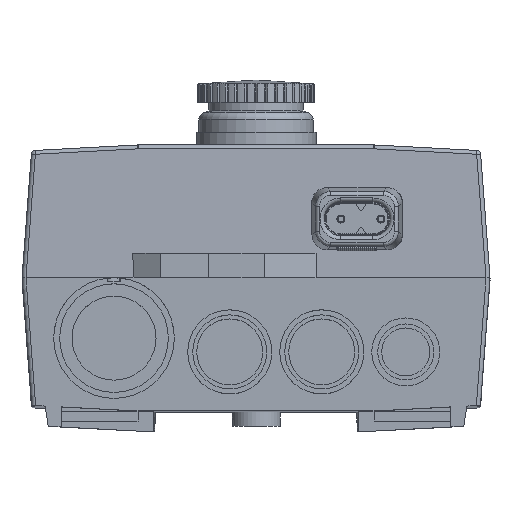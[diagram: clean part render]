
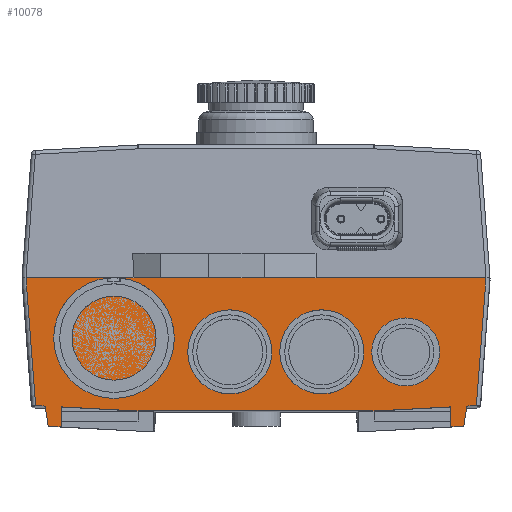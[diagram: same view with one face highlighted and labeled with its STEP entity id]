
A CAD part, top view. The second image highlights one B-rep face of the part: STEP entity #10078.
In plain terms, the highlighted planar face has unit normal (0, 0, 1).
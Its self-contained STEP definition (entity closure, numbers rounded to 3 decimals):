
#894=DIRECTION('',(-1.,0.,0.));
#895=VECTOR('',#894,42.498);
#896=CARTESIAN_POINT('',(57.498,0.,68.5));
#897=LINE('',#896,#895);
#906=DIRECTION('',(-1.,0.,0.));
#907=VECTOR('',#906,5.);
#908=CARTESIAN_POINT('',(-30.5,0.,68.5));
#909=LINE('',#908,#907);
#910=DIRECTION('',(-1.,0.,0.));
#911=VECTOR('',#910,21.998);
#912=CARTESIAN_POINT('',(-35.5,0.,68.5));
#913=LINE('',#912,#911);
#1002=DIRECTION('',(-0.075,0.997,0.));
#1003=VECTOR('',#1002,31.999);
#1004=CARTESIAN_POINT('',(-55.098,-31.908,
68.5));
#1005=LINE('',#1004,#1003);
#1006=CARTESIAN_POINT('',(-35.5,-15.075,68.5));
#1007=DIRECTION('',(0.,0.,1.));
#1008=DIRECTION('',(0.,1.,0.));
#1009=AXIS2_PLACEMENT_3D('',#1006,#1007,#1008);
#1011=CARTESIAN_POINT('',(-35.5,-15.075,68.5));
#1012=DIRECTION('',(0.,0.,1.));
#1013=DIRECTION('',(-1.,0.,0.));
#1014=AXIS2_PLACEMENT_3D('',#1011,#1012,#1013);
#1016=CARTESIAN_POINT('',(-35.5,-15.075,68.5));
#1017=DIRECTION('',(0.,0.,1.));
#1018=DIRECTION('',(1.,0.,0.));
#1019=AXIS2_PLACEMENT_3D('',#1016,#1017,#1018);
#1021=DIRECTION('',(-0.075,-0.997,0.));
#1022=VECTOR('',#1021,31.999);
#1023=CARTESIAN_POINT('',(57.498,0.,68.5));
#1024=LINE('',#1023,#1022);
#1025=DIRECTION('',(-0.999,-0.052,0.));
#1026=VECTOR('',#1025,2.397);
#1027=CARTESIAN_POINT('',(55.098,-31.908,68.5));
#1028=LINE('',#1027,#1026);
#1029=DIRECTION('',(-0.151,-0.989,0.));
#1030=VECTOR('',#1029,5.099);
#1031=CARTESIAN_POINT('',(52.705,-32.034,68.5));
#1032=LINE('',#1031,#1030);
#1033=DIRECTION('',(-0.999,-0.052,0.));
#1034=VECTOR('',#1033,3.23);
#1035=CARTESIAN_POINT('',(51.936,-37.074,68.5));
#1036=LINE('',#1035,#1034);
#1037=DIRECTION('',(-0.999,-0.052,0.));
#1038=VECTOR('',#1037,19.237);
#1039=CARTESIAN_POINT('',(48.71,-32.243,68.5));
#1040=LINE('',#1039,#1038);
#1041=DIRECTION('',(-1.,0.,0.));
#1042=VECTOR('',#1041,59.);
#1043=CARTESIAN_POINT('',(29.5,-33.25,68.5));
#1044=LINE('',#1043,#1042);
#1045=DIRECTION('',(-0.999,0.052,0.));
#1046=VECTOR('',#1045,19.237);
#1047=CARTESIAN_POINT('',(-29.5,-33.25,68.5));
#1048=LINE('',#1047,#1046);
#1049=DIRECTION('',(0.,-1.,0.));
#1050=VECTOR('',#1049,5.);
#1051=CARTESIAN_POINT('',(-48.71,-32.243,68.5));
#1052=LINE('',#1051,#1050);
#1053=DIRECTION('',(-0.999,0.052,0.));
#1054=VECTOR('',#1053,3.23);
#1055=CARTESIAN_POINT('',(-48.71,-37.243,68.5));
#1056=LINE('',#1055,#1054);
#1057=DIRECTION('',(-0.151,0.989,0.));
#1058=VECTOR('',#1057,5.099);
#1059=CARTESIAN_POINT('',(-51.936,-37.074,68.5));
#1060=LINE('',#1059,#1058);
#1061=DIRECTION('',(-0.999,0.052,0.));
#1062=VECTOR('',#1061,2.397);
#1063=CARTESIAN_POINT('',(-52.705,-32.034,68.5));
#1064=LINE('',#1063,#1062);
#1065=CARTESIAN_POINT('',(-6.563,-18.5,68.5));
#1066=DIRECTION('',(0.,0.,1.));
#1067=DIRECTION('',(-1.,0.,0.));
#1068=AXIS2_PLACEMENT_3D('',#1065,#1066,#1067);
#1070=CARTESIAN_POINT('',(-6.563,-18.5,68.5));
#1071=DIRECTION('',(0.,0.,1.));
#1072=DIRECTION('',(1.,0.,0.));
#1073=AXIS2_PLACEMENT_3D('',#1070,#1071,#1072);
#1075=CARTESIAN_POINT('',(16.438,-18.5,68.5));
#1076=DIRECTION('',(0.,0.,1.));
#1077=DIRECTION('',(-1.,0.,0.));
#1078=AXIS2_PLACEMENT_3D('',#1075,#1076,#1077);
#1080=CARTESIAN_POINT('',(16.438,-18.5,68.5));
#1081=DIRECTION('',(0.,0.,1.));
#1082=DIRECTION('',(1.,0.,0.));
#1083=AXIS2_PLACEMENT_3D('',#1080,#1081,#1082);
#1085=CARTESIAN_POINT('',(37.438,-18.5,68.5));
#1086=DIRECTION('',(0.,0.,1.));
#1087=DIRECTION('',(-1.,0.,0.));
#1088=AXIS2_PLACEMENT_3D('',#1085,#1086,#1087);
#1090=CARTESIAN_POINT('',(37.438,-18.5,68.5));
#1091=DIRECTION('',(0.,0.,1.));
#1092=DIRECTION('',(1.,0.,0.));
#1093=AXIS2_PLACEMENT_3D('',#1090,#1091,#1092);
#1449=DIRECTION('',(-1.,0.,0.));
#1450=VECTOR('',#1449,45.5);
#1451=CARTESIAN_POINT('',(15.,0.,68.5));
#1452=LINE('',#1451,#1450);
#1647=CARTESIAN_POINT('',(55.098,-31.908,68.5));
#2427=DIRECTION('',(0.,-1.,0.));
#2428=VECTOR('',#2427,5.);
#2429=CARTESIAN_POINT('',(48.71,-32.243,68.5));
#2430=LINE('',#2429,#2428);
#7031=CARTESIAN_POINT('',(29.5,-33.25,68.5));
#7032=VERTEX_POINT('',#7031);
#7033=CARTESIAN_POINT('',(48.71,-32.243,68.5));
#7034=VERTEX_POINT('',#7033);
#7035=VERTEX_POINT('',#1647);
#7057=CARTESIAN_POINT('',(52.705,-32.034,68.5));
#7058=VERTEX_POINT('',#7057);
#7079=CARTESIAN_POINT('',(48.71,-37.243,68.5));
#7080=VERTEX_POINT('',#7079);
#7099=CARTESIAN_POINT('',(-55.098,-31.908,
68.5));
#7100=CARTESIAN_POINT('',(-57.498,0.,
68.5));
#7101=VERTEX_POINT('',#7099);
#7102=VERTEX_POINT('',#7100);
#7103=CARTESIAN_POINT('',(-35.5,0.,68.5));
#7104=VERTEX_POINT('',#7103);
#7105=CARTESIAN_POINT('',(-50.575,-15.075,68.5));
#7106=VERTEX_POINT('',#7105);
#7107=CARTESIAN_POINT('',(-20.425,-15.075,68.5));
#7108=VERTEX_POINT('',#7107);
#7109=CARTESIAN_POINT('',(-30.5,0.,68.5));
#7110=VERTEX_POINT('',#7109);
#7111=CARTESIAN_POINT('',(15.,0.,68.5));
#7112=VERTEX_POINT('',#7111);
#7113=CARTESIAN_POINT('',(57.498,0.,68.5));
#7114=VERTEX_POINT('',#7113);
#7115=CARTESIAN_POINT('',(51.936,-37.074,68.5));
#7116=VERTEX_POINT('',#7115);
#7117=CARTESIAN_POINT('',(-29.5,-33.25,68.5));
#7118=VERTEX_POINT('',#7117);
#7119=CARTESIAN_POINT('',(-48.71,-32.243,68.5));
#7120=VERTEX_POINT('',#7119);
#7121=CARTESIAN_POINT('',(-48.71,-37.243,68.5));
#7122=VERTEX_POINT('',#7121);
#7123=CARTESIAN_POINT('',(-51.936,-37.074,68.5));
#7124=VERTEX_POINT('',#7123);
#7125=CARTESIAN_POINT('',(-52.705,-32.034,68.5));
#7126=VERTEX_POINT('',#7125);
#7127=CARTESIAN_POINT('',(-17.063,-18.5,68.5));
#7128=CARTESIAN_POINT('',(3.938,-18.5,68.5));
#7129=VERTEX_POINT('',#7127);
#7130=VERTEX_POINT('',#7128);
#7131=CARTESIAN_POINT('',(5.938,-18.5,68.5));
#7132=CARTESIAN_POINT('',(26.938,-18.5,68.5));
#7133=VERTEX_POINT('',#7131);
#7134=VERTEX_POINT('',#7132);
#7135=CARTESIAN_POINT('',(28.938,-18.5,68.5));
#7136=CARTESIAN_POINT('',(45.938,-18.5,68.5));
#7137=VERTEX_POINT('',#7135);
#7138=VERTEX_POINT('',#7136);
#10018=CARTESIAN_POINT('',(0.,0.,68.5));
#10019=DIRECTION('',(0.,0.,1.));
#10020=DIRECTION('',(0.,-1.,0.));
#10021=AXIS2_PLACEMENT_3D('',#10018,#10019,#10020);
#10022=PLANE('',#10021);
#10023=ORIENTED_EDGE('',*,*,#9974,.T.);
#10024=ORIENTED_EDGE('',*,*,#9887,.F.);
#10026=ORIENTED_EDGE('',*,*,#10025,.T.);
#10028=ORIENTED_EDGE('',*,*,#10027,.T.);
#10030=ORIENTED_EDGE('',*,*,#10029,.T.);
#10031=ORIENTED_EDGE('',*,*,#9885,.F.);
#10033=ORIENTED_EDGE('',*,*,#10032,.F.);
#10034=ORIENTED_EDGE('',*,*,#9877,.F.);
#10036=ORIENTED_EDGE('',*,*,#10035,.T.);
#10038=ORIENTED_EDGE('',*,*,#10037,.T.);
#10040=ORIENTED_EDGE('',*,*,#10039,.T.);
#10042=ORIENTED_EDGE('',*,*,#10041,.T.);
#10044=ORIENTED_EDGE('',*,*,#10043,.F.);
#10046=ORIENTED_EDGE('',*,*,#10045,.T.);
#10048=ORIENTED_EDGE('',*,*,#10047,.T.);
#10050=ORIENTED_EDGE('',*,*,#10049,.T.);
#10052=ORIENTED_EDGE('',*,*,#10051,.T.);
#10054=ORIENTED_EDGE('',*,*,#10053,.T.);
#10056=ORIENTED_EDGE('',*,*,#10055,.T.);
#10057=ORIENTED_EDGE('',*,*,#9985,.T.);
#10058=EDGE_LOOP('',(#10023,#10024,#10026,#10028,#10030,#10031,#10033,#10034,
#10036,#10038,#10040,#10042,#10044,#10046,#10048,#10050,#10052,#10054,#10056,
#10057));
#10059=FACE_OUTER_BOUND('',#10058,.F.);
#10061=ORIENTED_EDGE('',*,*,#10060,.T.);
#10063=ORIENTED_EDGE('',*,*,#10062,.T.);
#10064=EDGE_LOOP('',(#10061,#10063));
#10065=FACE_BOUND('',#10064,.F.);
#10067=ORIENTED_EDGE('',*,*,#10066,.T.);
#10069=ORIENTED_EDGE('',*,*,#10068,.T.);
#10070=EDGE_LOOP('',(#10067,#10069));
#10071=FACE_BOUND('',#10070,.F.);
#10073=ORIENTED_EDGE('',*,*,#10072,.T.);
#10075=ORIENTED_EDGE('',*,*,#10074,.T.);
#10076=EDGE_LOOP('',(#10073,#10075));
#10077=FACE_BOUND('',#10076,.F.);
#1010=CIRCLE('',#1009,15.075);
#1015=CIRCLE('',#1014,15.075);
#1020=CIRCLE('',#1019,15.075);
#1069=CIRCLE('',#1068,10.5);
#1074=CIRCLE('',#1073,10.5);
#1079=CIRCLE('',#1078,10.5);
#1084=CIRCLE('',#1083,10.5);
#1089=CIRCLE('',#1088,8.5);
#1094=CIRCLE('',#1093,8.5);
#9877=EDGE_CURVE('',#7114,#7112,#897,.T.);
#9885=EDGE_CURVE('',#7110,#7104,#909,.T.);
#9887=EDGE_CURVE('',#7104,#7102,#913,.T.);
#9974=EDGE_CURVE('',#7101,#7102,#1005,.T.);
#9985=EDGE_CURVE('',#7126,#7101,#1064,.T.);
#10025=EDGE_CURVE('',#7104,#7106,#1010,.T.);
#10027=EDGE_CURVE('',#7106,#7108,#1015,.T.);
#10029=EDGE_CURVE('',#7108,#7104,#1020,.T.);
#10032=EDGE_CURVE('',#7112,#7110,#1452,.T.);
#10035=EDGE_CURVE('',#7114,#7035,#1024,.T.);
#10037=EDGE_CURVE('',#7035,#7058,#1028,.T.);
#10039=EDGE_CURVE('',#7058,#7116,#1032,.T.);
#10041=EDGE_CURVE('',#7116,#7080,#1036,.T.);
#10043=EDGE_CURVE('',#7034,#7080,#2430,.T.);
#10045=EDGE_CURVE('',#7034,#7032,#1040,.T.);
#10047=EDGE_CURVE('',#7032,#7118,#1044,.T.);
#10049=EDGE_CURVE('',#7118,#7120,#1048,.T.);
#10051=EDGE_CURVE('',#7120,#7122,#1052,.T.);
#10053=EDGE_CURVE('',#7122,#7124,#1056,.T.);
#10055=EDGE_CURVE('',#7124,#7126,#1060,.T.);
#10060=EDGE_CURVE('',#7129,#7130,#1069,.T.);
#10062=EDGE_CURVE('',#7130,#7129,#1074,.T.);
#10066=EDGE_CURVE('',#7133,#7134,#1079,.T.);
#10068=EDGE_CURVE('',#7134,#7133,#1084,.T.);
#10072=EDGE_CURVE('',#7137,#7138,#1089,.T.);
#10074=EDGE_CURVE('',#7138,#7137,#1094,.T.);
#10078=ADVANCED_FACE('',(#10059,#10065,#10071,#10077),#10022,.T.);
